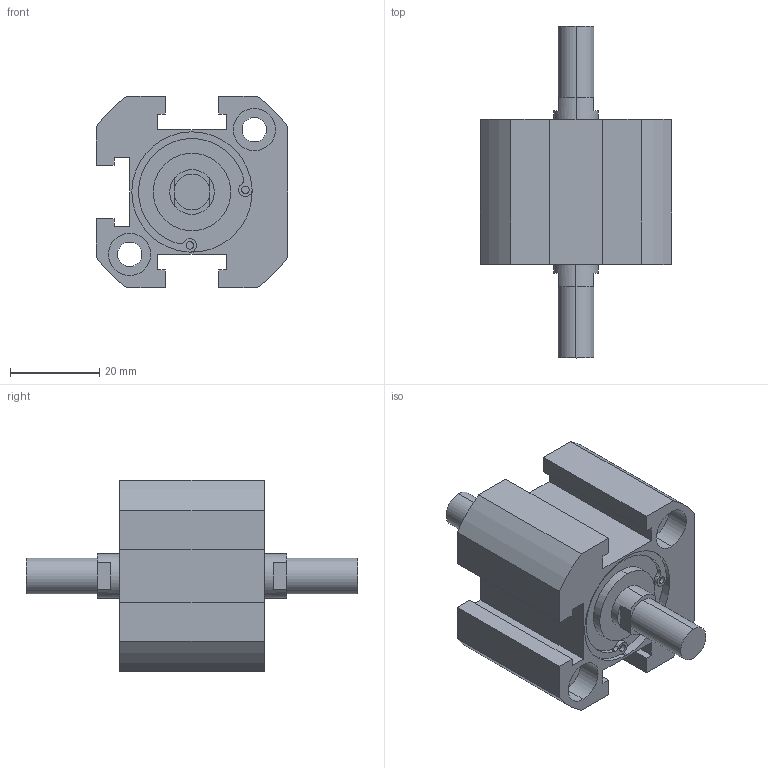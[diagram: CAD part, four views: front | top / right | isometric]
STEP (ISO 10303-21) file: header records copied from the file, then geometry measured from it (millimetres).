
FILE_DESCRIPTION (( 'STEP AP203' ), '1' );
FILE_NAME ('XC#M7-25-10.STEP', '2016-05-23T08:55:25', ( '' ), ( '' ), 'SwSTEP 2.0', 'SolidWorks 2014', '' );
FILE_SCHEMA (( 'CONFIG_CONTROL_DESIGN' ));
Length unit declared in the file: millimetre
Products named in the file (1): XC#M7-25-10
Bounding box: 43 x 74.5 x 43 mm (x, y, z)
Volume: 45683.5 mm3; surface area: 13497 mm2
Topology: 1 solids, 1 shells, 127 faces, 321 edges, 208 vertices
Faces by surface type: cylinder 65, plane 58, cone 4
Entity records: 3918 total; most frequent: DIRECTION 715, CARTESIAN_POINT 653, ORIENTED_EDGE 634, EDGE_CURVE 317, AXIS2_PLACEMENT_3D 270, VERTEX_POINT 208, LINE 175, VECTOR 175
